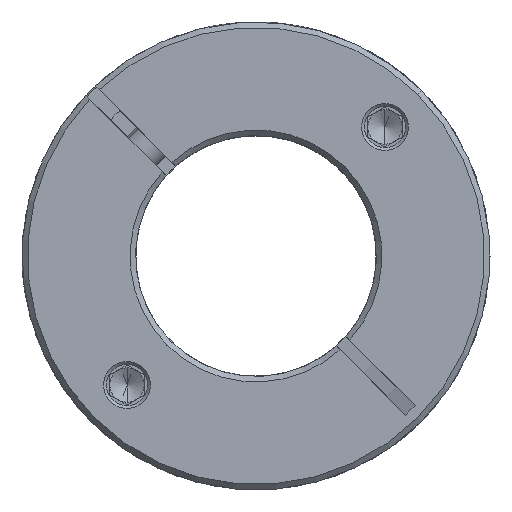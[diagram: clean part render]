
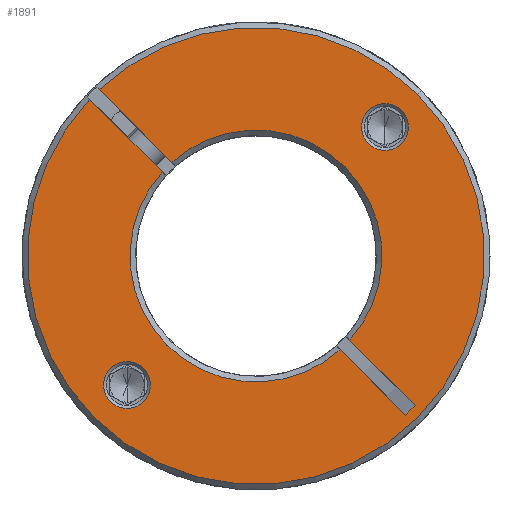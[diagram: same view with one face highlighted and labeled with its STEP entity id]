
A CAD part, front view. The second image highlights one B-rep face of the part: STEP entity #1891.
In plain terms, the highlighted planar face has unit normal (0, -1, 0).
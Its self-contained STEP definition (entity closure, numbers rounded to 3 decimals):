
#51 = AXIS2_PLACEMENT_3D ( 'NONE', #13041, #21109, #14738 ) ;
#86 = DIRECTION ( 'NONE',  ( 0., 1., 0. ) ) ;
#604 = ORIENTED_EDGE ( 'NONE', *, *, #18768, .T. ) ;
#1492 = CARTESIAN_POINT ( 'NONE',  ( -26.908, -67.045, 90.758 ) ) ;
#1576 = FACE_BOUND ( 'NONE', #5078, .T. ) ;
#1636 = VECTOR ( 'NONE', #14966, 1000. ) ;
#1638 = EDGE_CURVE ( 'NONE', #15101, #2254, #7785, .T. ) ;
#1891 = ADVANCED_FACE ( 'NONE', ( #1576, #8561, #7533 ), #3780, .T. ) ;
#2179 = CIRCLE ( 'NONE', #51, 18.3 ) ;
#2220 = CARTESIAN_POINT ( 'NONE',  ( 10.205, -67.045, 80.94 ) ) ;
#2254 = VERTEX_POINT ( 'NONE', #6282 ) ;
#2314 = VERTEX_POINT ( 'NONE', #1492 ) ;
#2521 = VERTEX_POINT ( 'NONE', #12263 ) ;
#2918 = DIRECTION ( 'NONE',  ( 0., 1., 0. ) ) ;
#2978 = AXIS2_PLACEMENT_3D ( 'NONE', #3067, #2918, #14553 ) ;
#3067 = CARTESIAN_POINT ( 'NONE',  ( -2.735, -67.045, 68. ) ) ;
#3184 = CARTESIAN_POINT ( 'NONE',  ( -23.878, -67.045, 46.858 ) ) ;
#3403 = EDGE_CURVE ( 'NONE', #18994, #10060, #10307, .T. ) ;
#3693 = ORIENTED_EDGE ( 'NONE', *, *, #13853, .T. ) ;
#3726 = ORIENTED_EDGE ( 'NONE', *, *, #5308, .T. ) ;
#3780 = PLANE ( 'NONE',  #14327 ) ;
#3932 = DIRECTION ( 'NONE',  ( 0.707, 0., -0.707 ) ) ;
#4139 = CARTESIAN_POINT ( 'NONE',  ( -19.069, -67.045, 51.666 ) ) ;
#4327 = VECTOR ( 'NONE', #12794, 1000. ) ;
#4363 = CARTESIAN_POINT ( 'NONE',  ( -2.735, -67.045, 68. ) ) ;
#4633 = EDGE_CURVE ( 'NONE', #2314, #6397, #6395, .T. ) ;
#5041 = ORIENTED_EDGE ( 'NONE', *, *, #18554, .T. ) ;
#5078 = EDGE_LOOP ( 'NONE', ( #5041, #13713 ) ) ;
#5105 = LINE ( 'NONE', #12112, #20313 ) ;
#5163 = DIRECTION ( 'NONE',  ( 0., -1., 0. ) ) ;
#5263 = DIRECTION ( 'NONE',  ( 0., 1., 0. ) ) ;
#5308 = EDGE_CURVE ( 'NONE', #10060, #15101, #17656, .T. ) ;
#5908 = EDGE_CURVE ( 'NONE', #7994, #6397, #2179, .T. ) ;
#5927 = EDGE_LOOP ( 'NONE', ( #12196, #3693 ) ) ;
#6032 = AXIS2_PLACEMENT_3D ( 'NONE', #6820, #5163, #15047 ) ;
#6033 = DIRECTION ( 'NONE',  ( 0.707, 0., -0.707 ) ) ;
#6145 = CARTESIAN_POINT ( 'NONE',  ( 20.741, -67.045, 91.476 ) ) ;
#6282 = CARTESIAN_POINT ( 'NONE',  ( 10.893, -67.045, 55.786 ) ) ;
#6284 = CIRCLE ( 'NONE', #19740, 3.4 ) ;
#6395 = LINE ( 'NONE', #14287, #4327 ) ;
#6397 = VERTEX_POINT ( 'NONE', #6870 ) ;
#6596 = AXIS2_PLACEMENT_3D ( 'NONE', #20017, #5263, #11512 ) ;
#6605 = VERTEX_POINT ( 'NONE', #15311 ) ;
#6617 = ORIENTED_EDGE ( 'NONE', *, *, #17939, .F. ) ;
#6820 = CARTESIAN_POINT ( 'NONE',  ( -2.735, -67.045, 68. ) ) ;
#6870 = CARTESIAN_POINT ( 'NONE',  ( -16.363, -67.045, 80.214 ) ) ;
#6982 = CARTESIAN_POINT ( 'NONE',  ( 16.003, -67.045, 86.738 ) ) ;
#7014 = CARTESIAN_POINT ( 'NONE',  ( -2.735, -67.045, 68. ) ) ;
#7304 = CIRCLE ( 'NONE', #8198, 3.4 ) ;
#7533 = FACE_OUTER_BOUND ( 'NONE', #13313, .T. ) ;
#7598 = VERTEX_POINT ( 'NONE', #6145 ) ;
#7643 = ORIENTED_EDGE ( 'NONE', *, *, #4633, .F. ) ;
#7785 = CIRCLE ( 'NONE', #19735, 18.3 ) ;
#7810 = CARTESIAN_POINT ( 'NONE',  ( 16.003, -67.045, 86.738 ) ) ;
#7882 = DIRECTION ( 'NONE',  ( 0., 1., 0. ) ) ;
#7994 = VERTEX_POINT ( 'NONE', #17113 ) ;
#8048 = ORIENTED_EDGE ( 'NONE', *, *, #1638, .T. ) ;
#8075 = AXIS2_PLACEMENT_3D ( 'NONE', #18309, #13358, #13427 ) ;
#8198 = AXIS2_PLACEMENT_3D ( 'NONE', #7810, #7882, #11199 ) ;
#8309 = CIRCLE ( 'NONE', #8075, 33.2 ) ;
#8425 = VERTEX_POINT ( 'NONE', #4139 ) ;
#8495 = VECTOR ( 'NONE', #19377, 1000. ) ;
#8561 = FACE_BOUND ( 'NONE', #5927, .T. ) ;
#8967 = DIRECTION ( 'NONE',  ( 0., -1., 0. ) ) ;
#8985 = ORIENTED_EDGE ( 'NONE', *, *, #13309, .T. ) ;
#9119 = DIRECTION ( 'NONE',  ( 0.707, 0., 0.707 ) ) ;
#9504 = CARTESIAN_POINT ( 'NONE',  ( -3.442, -67.045, 67.293 ) ) ;
#9603 = VERTEX_POINT ( 'NONE', #17426 ) ;
#9703 = CIRCLE ( 'NONE', #6596, 3.4 ) ;
#10060 = VERTEX_POINT ( 'NONE', #13254 ) ;
#10130 = CIRCLE ( 'NONE', #16401, 3.4 ) ;
#10307 = LINE ( 'NONE', #12976, #8495 ) ;
#10735 = VERTEX_POINT ( 'NONE', #3184 ) ;
#11123 = AXIS2_PLACEMENT_3D ( 'NONE', #18792, #8967, #9119 ) ;
#11199 = DIRECTION ( 'NONE',  ( 0.707, 0., 0.707 ) ) ;
#11512 = DIRECTION ( 'NONE',  ( 0.707, 0., 0.707 ) ) ;
#11719 = DIRECTION ( 'NONE',  ( 0.707, 0., 0.707 ) ) ;
#11720 = LINE ( 'NONE', #11874, #1636 ) ;
#11839 = CIRCLE ( 'NONE', #11123, 33.2 ) ;
#11874 = CARTESIAN_POINT ( 'NONE',  ( 18.988, -67.045, 44.862 ) ) ;
#12058 = ORIENTED_EDGE ( 'NONE', *, *, #14341, .T. ) ;
#12112 = CARTESIAN_POINT ( 'NONE',  ( -2.028, -67.045, 68.707 ) ) ;
#12196 = ORIENTED_EDGE ( 'NONE', *, *, #18728, .T. ) ;
#12218 = VECTOR ( 'NONE', #6033, 1000. ) ;
#12263 = CARTESIAN_POINT ( 'NONE',  ( 20.402, -67.045, 46.277 ) ) ;
#12298 = ORIENTED_EDGE ( 'NONE', *, *, #15906, .T. ) ;
#12338 = DIRECTION ( 'NONE',  ( 0.707, 0., 0.707 ) ) ;
#12532 = ORIENTED_EDGE ( 'NONE', *, *, #20428, .T. ) ;
#12547 = VERTEX_POINT ( 'NONE', #15519 ) ;
#12794 = DIRECTION ( 'NONE',  ( 0.707, 0., -0.707 ) ) ;
#12976 = CARTESIAN_POINT ( 'NONE',  ( -2.028, -67.045, 68.707 ) ) ;
#13041 = CARTESIAN_POINT ( 'NONE',  ( -2.735, -67.045, 68. ) ) ;
#13254 = CARTESIAN_POINT ( 'NONE',  ( -14.949, -67.045, 81.628 ) ) ;
#13309 = EDGE_CURVE ( 'NONE', #2254, #2521, #5105, .T. ) ;
#13313 = EDGE_LOOP ( 'NONE', ( #7643, #12058, #604, #12532, #15644, #3726, #8048, #8985, #12298, #6617, #16573 ) ) ;
#13358 = DIRECTION ( 'NONE',  ( 0., -1., 0. ) ) ;
#13427 = DIRECTION ( 'NONE',  ( 0.707, 0., 0.707 ) ) ;
#13713 = ORIENTED_EDGE ( 'NONE', *, *, #16391, .T. ) ;
#13853 = EDGE_CURVE ( 'NONE', #10735, #8425, #9703, .T. ) ;
#14002 = LINE ( 'NONE', #9504, #12218 ) ;
#14287 = CARTESIAN_POINT ( 'NONE',  ( -3.442, -67.045, 67.293 ) ) ;
#14327 = AXIS2_PLACEMENT_3D ( 'NONE', #7014, #18494, #16849 ) ;
#14341 = EDGE_CURVE ( 'NONE', #2314, #6605, #16077, .T. ) ;
#14553 = DIRECTION ( 'NONE',  ( 0.707, 0., 0.707 ) ) ;
#14738 = DIRECTION ( 'NONE',  ( 0.707, 0., 0.707 ) ) ;
#14966 = DIRECTION ( 'NONE',  ( -0.707, 0., -0.707 ) ) ;
#15047 = DIRECTION ( 'NONE',  ( 0.707, 0., 0.707 ) ) ;
#15101 = VERTEX_POINT ( 'NONE', #2220 ) ;
#15311 = CARTESIAN_POINT ( 'NONE',  ( -26.211, -67.045, 44.524 ) ) ;
#15519 = CARTESIAN_POINT ( 'NONE',  ( 13.599, -67.045, 84.334 ) ) ;
#15644 = ORIENTED_EDGE ( 'NONE', *, *, #3403, .T. ) ;
#15906 = EDGE_CURVE ( 'NONE', #2521, #20783, #11720, .T. ) ;
#16077 = CIRCLE ( 'NONE', #6032, 33.2 ) ;
#16391 = EDGE_CURVE ( 'NONE', #12547, #9603, #6284, .T. ) ;
#16401 = AXIS2_PLACEMENT_3D ( 'NONE', #18503, #86, #16563 ) ;
#16563 = DIRECTION ( 'NONE',  ( 0.707, 0., 0.707 ) ) ;
#16573 = ORIENTED_EDGE ( 'NONE', *, *, #5908, .T. ) ;
#16849 = DIRECTION ( 'NONE',  ( 0.707, 0., 0.707 ) ) ;
#17113 = CARTESIAN_POINT ( 'NONE',  ( 9.479, -67.045, 54.372 ) ) ;
#17426 = CARTESIAN_POINT ( 'NONE',  ( 18.407, -67.045, 89.142 ) ) ;
#17656 = CIRCLE ( 'NONE', #2978, 18.3 ) ;
#17939 = EDGE_CURVE ( 'NONE', #7994, #20783, #14002, .T. ) ;
#18282 = CARTESIAN_POINT ( 'NONE',  ( 18.988, -67.045, 44.862 ) ) ;
#18309 = CARTESIAN_POINT ( 'NONE',  ( -2.735, -67.045, 68. ) ) ;
#18494 = DIRECTION ( 'NONE',  ( 0., -1., 0. ) ) ;
#18503 = CARTESIAN_POINT ( 'NONE',  ( -21.473, -67.045, 49.262 ) ) ;
#18554 = EDGE_CURVE ( 'NONE', #9603, #12547, #7304, .T. ) ;
#18728 = EDGE_CURVE ( 'NONE', #8425, #10735, #10130, .T. ) ;
#18768 = EDGE_CURVE ( 'NONE', #6605, #7598, #8309, .T. ) ;
#18792 = CARTESIAN_POINT ( 'NONE',  ( -2.735, -67.045, 68. ) ) ;
#18994 = VERTEX_POINT ( 'NONE', #21266 ) ;
#19377 = DIRECTION ( 'NONE',  ( 0.707, 0., -0.707 ) ) ;
#19735 = AXIS2_PLACEMENT_3D ( 'NONE', #4363, #20577, #12338 ) ;
#19740 = AXIS2_PLACEMENT_3D ( 'NONE', #6982, #20085, #11719 ) ;
#20017 = CARTESIAN_POINT ( 'NONE',  ( -21.473, -67.045, 49.262 ) ) ;
#20085 = DIRECTION ( 'NONE',  ( 0., 1., 0. ) ) ;
#20313 = VECTOR ( 'NONE', #3932, 1000. ) ;
#20428 = EDGE_CURVE ( 'NONE', #7598, #18994, #11839, .T. ) ;
#20577 = DIRECTION ( 'NONE',  ( 0., 1., 0. ) ) ;
#20783 = VERTEX_POINT ( 'NONE', #18282 ) ;
#21109 = DIRECTION ( 'NONE',  ( 0., 1., 0. ) ) ;
#21266 = CARTESIAN_POINT ( 'NONE',  ( -25.493, -67.045, 92.172 ) ) ;
